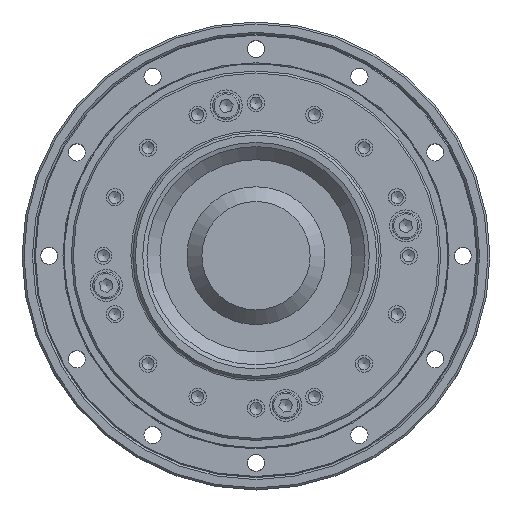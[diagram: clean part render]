
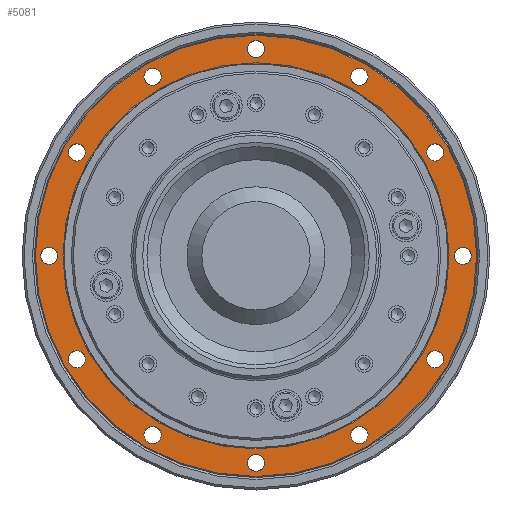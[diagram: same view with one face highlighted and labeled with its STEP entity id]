
A CAD part, top view. The second image highlights one B-rep face of the part: STEP entity #5081.
In plain terms, the highlighted planar face has unit normal (0, 0, 1).
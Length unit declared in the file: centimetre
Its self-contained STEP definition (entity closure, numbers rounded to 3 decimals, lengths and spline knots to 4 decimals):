
#675=PLANE('',#5802);
#1037=FACE_BOUND('',#2073,.T.);
#1038=FACE_BOUND('',#2074,.T.);
#1039=FACE_BOUND('',#2075,.T.);
#1040=FACE_BOUND('',#2076,.T.);
#1041=FACE_BOUND('',#2077,.T.);
#1042=FACE_BOUND('',#2078,.T.);
#1043=FACE_BOUND('',#2079,.T.);
#1044=FACE_BOUND('',#2080,.T.);
#1045=FACE_BOUND('',#2081,.T.);
#1046=FACE_BOUND('',#2082,.T.);
#1047=FACE_BOUND('',#2083,.T.);
#1048=FACE_BOUND('',#2084,.T.);
#1049=FACE_BOUND('',#2085,.T.);
#1419=FACE_OUTER_BOUND('',#2072,.T.);
#2072=EDGE_LOOP('',(#4317));
#2073=EDGE_LOOP('',(#4318));
#2074=EDGE_LOOP('',(#4319));
#2075=EDGE_LOOP('',(#4320));
#2076=EDGE_LOOP('',(#4321));
#2077=EDGE_LOOP('',(#4322));
#2078=EDGE_LOOP('',(#4323));
#2079=EDGE_LOOP('',(#4324));
#2080=EDGE_LOOP('',(#4325));
#2081=EDGE_LOOP('',(#4326));
#2082=EDGE_LOOP('',(#4327));
#2083=EDGE_LOOP('',(#4328));
#2084=EDGE_LOOP('',(#4329));
#2085=EDGE_LOOP('',(#4330));
#2556=CIRCLE('',#5801,3.92);
#2557=CIRCLE('',#5803,4.48);
#2558=CIRCLE('',#5804,0.175);
#2559=CIRCLE('',#5805,0.175);
#2560=CIRCLE('',#5806,0.175);
#2561=CIRCLE('',#5807,0.175);
#2562=CIRCLE('',#5808,0.175);
#2563=CIRCLE('',#5809,0.175);
#2564=CIRCLE('',#5810,0.175);
#2565=CIRCLE('',#5811,0.175);
#2566=CIRCLE('',#5812,0.175);
#2567=CIRCLE('',#5813,0.175);
#2568=CIRCLE('',#5814,0.175);
#2569=CIRCLE('',#5815,0.175);
#2970=VERTEX_POINT('',#8718);
#2971=VERTEX_POINT('',#8721);
#2972=VERTEX_POINT('',#8723);
#2973=VERTEX_POINT('',#8725);
#2974=VERTEX_POINT('',#8727);
#2975=VERTEX_POINT('',#8729);
#2976=VERTEX_POINT('',#8731);
#2977=VERTEX_POINT('',#8733);
#2978=VERTEX_POINT('',#8735);
#2979=VERTEX_POINT('',#8737);
#2980=VERTEX_POINT('',#8739);
#2981=VERTEX_POINT('',#8741);
#2982=VERTEX_POINT('',#8743);
#2983=VERTEX_POINT('',#8745);
#3462=EDGE_CURVE('',#2970,#2970,#2556,.T.);
#3463=EDGE_CURVE('',#2971,#2971,#2557,.T.);
#3464=EDGE_CURVE('',#2972,#2972,#2558,.T.);
#3465=EDGE_CURVE('',#2973,#2973,#2559,.T.);
#3466=EDGE_CURVE('',#2974,#2974,#2560,.T.);
#3467=EDGE_CURVE('',#2975,#2975,#2561,.T.);
#3468=EDGE_CURVE('',#2976,#2976,#2562,.T.);
#3469=EDGE_CURVE('',#2977,#2977,#2563,.T.);
#3470=EDGE_CURVE('',#2978,#2978,#2564,.T.);
#3471=EDGE_CURVE('',#2979,#2979,#2565,.T.);
#3472=EDGE_CURVE('',#2980,#2980,#2566,.T.);
#3473=EDGE_CURVE('',#2981,#2981,#2567,.T.);
#3474=EDGE_CURVE('',#2982,#2982,#2568,.T.);
#3475=EDGE_CURVE('',#2983,#2983,#2569,.T.);
#4317=ORIENTED_EDGE('',*,*,#3463,.F.);
#4318=ORIENTED_EDGE('',*,*,#3464,.T.);
#4319=ORIENTED_EDGE('',*,*,#3465,.T.);
#4320=ORIENTED_EDGE('',*,*,#3466,.T.);
#4321=ORIENTED_EDGE('',*,*,#3467,.T.);
#4322=ORIENTED_EDGE('',*,*,#3468,.T.);
#4323=ORIENTED_EDGE('',*,*,#3469,.T.);
#4324=ORIENTED_EDGE('',*,*,#3470,.T.);
#4325=ORIENTED_EDGE('',*,*,#3471,.T.);
#4326=ORIENTED_EDGE('',*,*,#3472,.T.);
#4327=ORIENTED_EDGE('',*,*,#3473,.T.);
#4328=ORIENTED_EDGE('',*,*,#3474,.T.);
#4329=ORIENTED_EDGE('',*,*,#3475,.T.);
#4330=ORIENTED_EDGE('',*,*,#3462,.F.);
#5081=ADVANCED_FACE('',(#1419,#1037,#1038,#1039,#1040,#1041,#1042,#1043,
#1044,#1045,#1046,#1047,#1048,#1049),#675,.T.);
#5801=AXIS2_PLACEMENT_3D('',#8719,#7228,#7229);
#5802=AXIS2_PLACEMENT_3D('',#8720,#7230,#7231);
#5803=AXIS2_PLACEMENT_3D('',#8722,#7232,#7233);
#5804=AXIS2_PLACEMENT_3D('',#8724,#7234,#7235);
#5805=AXIS2_PLACEMENT_3D('',#8726,#7236,#7237);
#5806=AXIS2_PLACEMENT_3D('',#8728,#7238,#7239);
#5807=AXIS2_PLACEMENT_3D('',#8730,#7240,#7241);
#5808=AXIS2_PLACEMENT_3D('',#8732,#7242,#7243);
#5809=AXIS2_PLACEMENT_3D('',#8734,#7244,#7245);
#5810=AXIS2_PLACEMENT_3D('',#8736,#7246,#7247);
#5811=AXIS2_PLACEMENT_3D('',#8738,#7248,#7249);
#5812=AXIS2_PLACEMENT_3D('',#8740,#7250,#7251);
#5813=AXIS2_PLACEMENT_3D('',#8742,#7252,#7253);
#5814=AXIS2_PLACEMENT_3D('',#8744,#7254,#7255);
#5815=AXIS2_PLACEMENT_3D('',#8746,#7256,#7257);
#7228=DIRECTION('center_axis',(0.,0.,1.));
#7229=DIRECTION('ref_axis',(0.,1.,0.));
#7230=DIRECTION('center_axis',(0.,0.,1.));
#7231=DIRECTION('ref_axis',(-1.,0.,0.));
#7232=DIRECTION('center_axis',(0.,0.,-1.));
#7233=DIRECTION('ref_axis',(0.,1.,0.));
#7234=DIRECTION('center_axis',(0.,0.,-1.));
#7235=DIRECTION('ref_axis',(1.,0.,0.));
#7236=DIRECTION('center_axis',(0.,0.,-1.));
#7237=DIRECTION('ref_axis',(1.,0.,0.));
#7238=DIRECTION('center_axis',(0.,0.,-1.));
#7239=DIRECTION('ref_axis',(1.,0.,0.));
#7240=DIRECTION('center_axis',(0.,0.,-1.));
#7241=DIRECTION('ref_axis',(1.,0.,0.));
#7242=DIRECTION('center_axis',(0.,0.,-1.));
#7243=DIRECTION('ref_axis',(1.,0.,0.));
#7244=DIRECTION('center_axis',(0.,0.,-1.));
#7245=DIRECTION('ref_axis',(1.,0.,0.));
#7246=DIRECTION('center_axis',(0.,0.,-1.));
#7247=DIRECTION('ref_axis',(1.,0.,0.));
#7248=DIRECTION('center_axis',(0.,0.,-1.));
#7249=DIRECTION('ref_axis',(1.,0.,0.));
#7250=DIRECTION('center_axis',(0.,0.,-1.));
#7251=DIRECTION('ref_axis',(1.,0.,0.));
#7252=DIRECTION('center_axis',(0.,0.,-1.));
#7253=DIRECTION('ref_axis',(1.,0.,0.));
#7254=DIRECTION('center_axis',(0.,0.,-1.));
#7255=DIRECTION('ref_axis',(1.,0.,0.));
#7256=DIRECTION('center_axis',(0.,0.,-1.));
#7257=DIRECTION('ref_axis',(1.,0.,0.));
#8718=CARTESIAN_POINT('',(0.,-3.92,1.65));
#8719=CARTESIAN_POINT('Origin',(0.,0.,1.65));
#8720=CARTESIAN_POINT('Origin',(0.,-4.5,1.65));
#8721=CARTESIAN_POINT('',(0.,-4.48,1.65));
#8722=CARTESIAN_POINT('Origin',(0.,0.,1.65));
#8723=CARTESIAN_POINT('',(1.925,3.6373,1.65));
#8724=CARTESIAN_POINT('Origin',(2.1,3.6373,1.65));
#8725=CARTESIAN_POINT('',(-2.275,3.6373,1.65));
#8726=CARTESIAN_POINT('Origin',(-2.1,3.6373,1.65));
#8727=CARTESIAN_POINT('',(-4.375,0.,1.65));
#8728=CARTESIAN_POINT('Origin',(-4.2,0.,1.65));
#8729=CARTESIAN_POINT('',(-2.275,-3.6373,1.65));
#8730=CARTESIAN_POINT('Origin',(-2.1,-3.6373,1.65));
#8731=CARTESIAN_POINT('',(1.925,-3.6373,1.65));
#8732=CARTESIAN_POINT('Origin',(2.1,-3.6373,1.65));
#8733=CARTESIAN_POINT('',(4.025,0.,1.65));
#8734=CARTESIAN_POINT('Origin',(4.2,0.,1.65));
#8735=CARTESIAN_POINT('',(3.4623,-2.1,1.65));
#8736=CARTESIAN_POINT('Origin',(3.6373,-2.1,1.65));
#8737=CARTESIAN_POINT('',(-0.175,-4.2,1.65));
#8738=CARTESIAN_POINT('Origin',(0.,-4.2,1.65));
#8739=CARTESIAN_POINT('',(-3.8123,-2.1,1.65));
#8740=CARTESIAN_POINT('Origin',(-3.6373,-2.1,1.65));
#8741=CARTESIAN_POINT('',(-3.8123,2.1,1.65));
#8742=CARTESIAN_POINT('Origin',(-3.6373,2.1,1.65));
#8743=CARTESIAN_POINT('',(-0.175,4.2,1.65));
#8744=CARTESIAN_POINT('Origin',(0.,4.2,1.65));
#8745=CARTESIAN_POINT('',(3.4623,2.1,1.65));
#8746=CARTESIAN_POINT('Origin',(3.6373,2.1,1.65));
